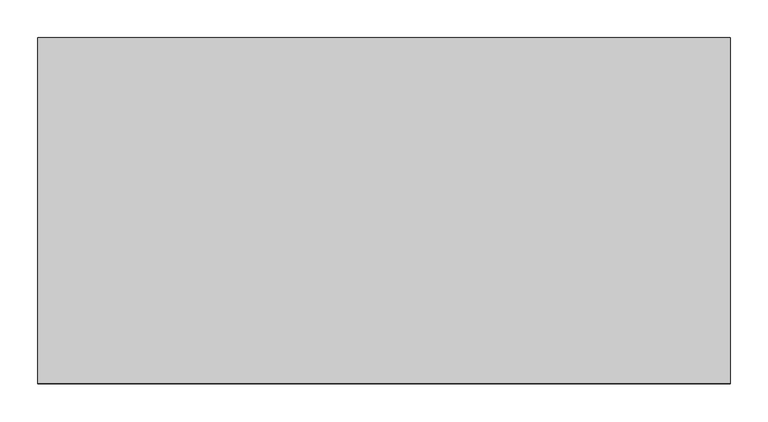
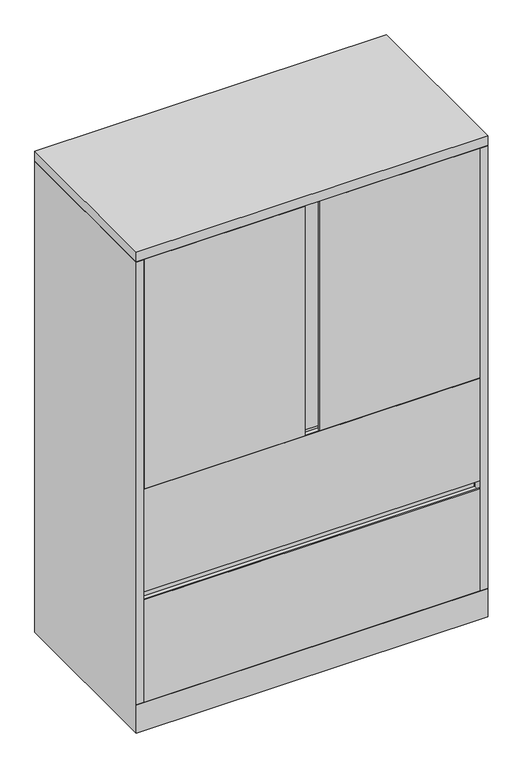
"""IFC4 building model written with IfcOpenShell, lengths in millimetres: furniture geometry, Steelcase - Universal Storage - Cabinet - Combination - Flush Steel : 52H - 2 Drawers - 18D x 36W."""

from ifc_helpers import new_model, si_unit, frame, origin, place, context, project, spatial, polyline, outline, extrude, faceted_brep, source, transform, mapped, element, save


def furniture_959828f3(model_context):
    return source(origin(), model_context, "Body", "SolidModel", [
        extrude(outline(polyline([(21.8068168, -431.673866), (893.572, -431.673866), (893.572, -457.2), (476.25, -457.2), (476.25, -452.883482), (489.4189152, -452.883482), (489.4189152, -438.0238781), (438.15, -438.0238781), (438.15, -457.2), (21.8068168, -457.2), (21.8068168, -431.673866)])), frame((0.0, 0.0, 663.956), z_axis=(0.0, 0.0, 1.0), x_axis=(1.0, 0.0, 0.0)), (0.0, 0.0, 1.0), 629.92),
        extrude(outline(polyline([(914.4, 0.0), (914.4, -457.2), (0.0, -457.2), (0.0, 0.0), (914.4, 0.0)])), frame((0.0, 0.0, 1295.3999516), z_axis=(0.0, 0.0, 1.0), x_axis=(1.0, 0.0, 0.0)), (0.0, 0.0, 1.0), 25.4000484),
        extrude(outline(polyline([(-457.2, 358.7750484), (-454.0242491, 358.7750484), (-454.0242491, 349.2500484), (-431.673866, 349.2500484), (-431.673866, 381.0), (-430.1498674, 381.0), (-430.1498674, 349.2500484), (-430.1498674, 77.724), (-457.2, 77.724), (-457.2, 358.7750484)])), frame((20.8280006, 0.0, 0.0), z_axis=(1.0, 0.0, 0.0), x_axis=(0.0, 1.0, 0.0)), (0.0, 0.0, 1.0), 872.7439994),
        extrude(outline(polyline([(889.0000242, -25.4000008), (889.0000242, -430.1498674), (25.4000008, -430.1498674), (25.4000008, -25.4000008), (889.0000242, -25.4000008)])), frame((0.0, 0.0, 965.3270484), z_axis=(0.0, 0.0, 1.0), x_axis=(1.0, 0.0, 0.0)), (0.0, 0.0, 1.0), 22.2249516),
        extrude(outline(polyline([(-457.2, 662.0510484), (-454.0242491, 662.0510484), (-454.0242491, 652.5260484), (-431.673866, 652.5260484), (-431.673866, 684.276), (-430.1498674, 684.276), (-430.1498674, 652.5260484), (-430.1498674, 381.0), (-457.2, 381.0), (-457.2, 662.0510484)])), frame((20.8280006, 0.0, 0.0), z_axis=(1.0, 0.0, 0.0), x_axis=(0.0, 1.0, 0.0)), (0.0, 0.0, 1.0), 872.7439994),
        extrude(outline(polyline([(889.0000242, -25.4000008), (889.0000242, -430.1498674), (25.4000008, -430.1498674), (25.4000008, -25.4000008), (889.0000242, -25.4000008)])), frame((0.0, 0.0, 662.0510484), z_axis=(0.0, 0.0, 1.0), x_axis=(1.0, 0.0, 0.0)), (0.0, 0.0, 1.0), 22.2249516),
        faceted_brep([(914.4, 0.0, 0.0), (914.4, -457.2, 0.0), (0.0, -457.2, 0.0), (0.0, 0.0, 0.0), (0.0, 0.0, 1293.876), (914.4, 0.0, 1293.876), (0.0, -457.2, 76.2), (0.0, -457.2, 77.724), (0.0, -457.2, 1293.876), (914.4, -457.2, 76.2), (914.4, -457.2, 1293.876), (914.4, -457.2, 77.724), (889.0000242, -25.4000008, 1293.876), (889.0000242, -430.1498674, 1293.876), (893.572, -430.1498674, 1293.876), (893.572, -431.6738781, 1293.876), (895.096, -431.6738781, 1293.876), (895.096, -457.2, 1293.876), (19.304, -457.2, 1293.876), (19.304, -431.673866, 1293.876), (20.8280006, -431.673866, 1293.876), (20.8280006, -430.1498674, 1293.876), (25.4000008, -430.1498674, 1293.876), (25.4000008, -25.4000008, 1293.876), (19.304, -457.2, 77.724), (19.304, -437.896, 77.724), (895.096, -457.2, 77.724), (895.096, -437.7698418, 77.724), (889.0000242, -25.4000008, 77.724), (889.0000242, -430.1498674, 77.724), (893.572, -430.1498674, 77.724), (893.572, -431.6738781, 77.724), (895.096, -431.6738781, 77.724), (19.304, -431.673866, 77.724), (20.8280006, -431.673866, 77.724), (20.8280006, -430.1498674, 77.724), (25.4000008, -430.1498674, 77.724), (25.4000008, -25.4000008, 77.724), (25.526134, -431.673866, 77.724), (889.0000242, -431.673866, 77.724)], [[[0, 1, 2, 3]], [[0, 3, 4, 5]], [[4, 3, 2, 6, 7, 8]], [[2, 1, 9, 6]], [[1, 0, 5, 10, 11, 9]], [[12, 13, 14, 15, 16, 17, 10, 5, 4, 8, 18, 19, 20, 21, 22, 23]], [[24, 7, 25]], [[11, 26, 27]], [[13, 12, 28, 29]], [[14, 13, 29, 30]], [[15, 14, 30, 31]], [[16, 15, 31, 32]], [[17, 16, 32, 27, 26]], [[10, 17, 26, 11]], [[18, 8, 7, 24]], [[19, 18, 24, 25, 33]], [[20, 19, 33, 34]], [[21, 20, 34, 35]], [[22, 21, 35, 36]], [[23, 22, 36, 37]], [[12, 23, 37, 28]], [[38, 39, 27, 32, 31, 30, 29, 28, 37, 36, 35, 34, 33, 25]], [[7, 6, 38, 25]], [[39, 38, 6, 9]], [[39, 9, 11, 27]]]),
    ])


if __name__ == "__main__":
    model = new_model("IFC4")
    model_context = context("Model", 3, world=origin())
    ifc_project = project(units=[si_unit("LENGTHUNIT", "METRE", prefix="MILLI")], contexts=[model_context])
    site = spatial("IfcSite", under=ifc_project)
    building = spatial("IfcBuilding", under=site)
    placement = place(None, origin())
    furniture_shape = furniture_959828f3(model_context)
    element("IfcFurniture", 1, ObjectType="Steelcase - Universal Storage - Cabinet - Combination - Flush Steel : 52H - 2 Drawers - 18D x 36W", at=placement, inside=building, context=model_context, shape_type="MappedRepresentation", body=[
        mapped(furniture_shape, transform((0.0, 0.0, 0.0), x_axis=(1.0, 0.0, 0.0), y_axis=(0.0, 1.0, 0.0), z_axis=(0.0, 0.0, 1.0))),
    ])
    save(model, "model.ifc")
